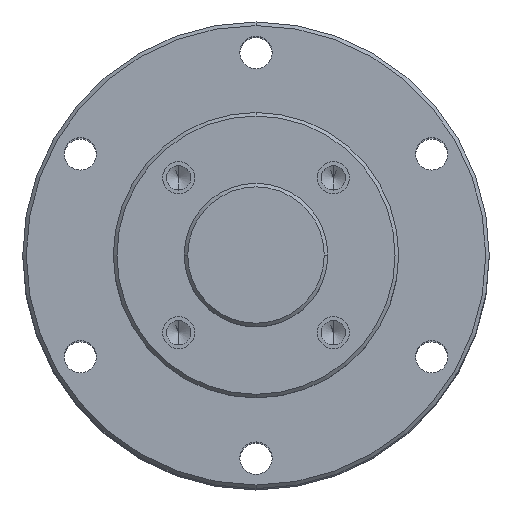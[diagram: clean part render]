
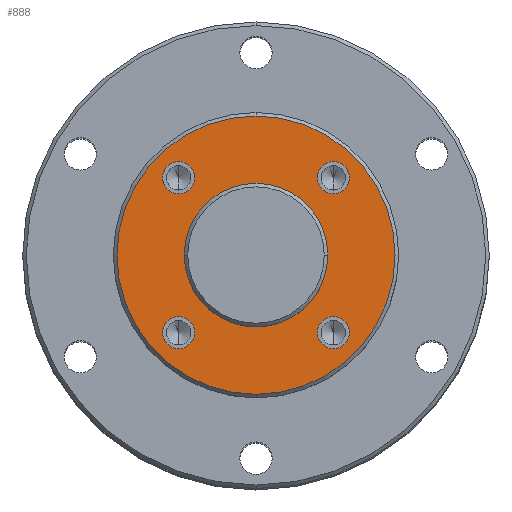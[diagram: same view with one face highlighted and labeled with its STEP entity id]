
A CAD part, top view. The second image highlights one B-rep face of the part: STEP entity #888.
In plain terms, the highlighted planar face has unit normal (0, 0, 1).
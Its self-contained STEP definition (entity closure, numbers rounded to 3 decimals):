
#10 = PLANE ( 'NONE',  #5360 ) ;
#138 = CARTESIAN_POINT ( 'NONE',  ( 0., 38.75, 0. ) ) ;
#148 = ORIENTED_EDGE ( 'NONE', *, *, #1441, .F. ) ;
#171 = CIRCLE ( 'NONE', #2858, 38.75 ) ;
#242 = CIRCLE ( 'NONE', #2780, 4.5 ) ;
#333 = VERTEX_POINT ( 'NONE', #3912 ) ;
#382 = VERTEX_POINT ( 'NONE', #3114 ) ;
#411 = EDGE_CURVE ( 'NONE', #2806, #333, #2847, .T. ) ;
#419 = AXIS2_PLACEMENT_3D ( 'NONE', #1274, #4206, #1695 ) ;
#431 = DIRECTION ( 'NONE',  ( 0., 1., 0. ) ) ;
#506 = FACE_OUTER_BOUND ( 'NONE', #5427, .T. ) ;
#571 = CARTESIAN_POINT ( 'NONE',  ( 0., -38.75, 0. ) ) ;
#606 = VERTEX_POINT ( 'NONE', #2577 ) ;
#627 = CARTESIAN_POINT ( 'NONE',  ( 0., 0., 0. ) ) ;
#708 = DIRECTION ( 'NONE',  ( 0., 0., 1. ) ) ;
#745 = DIRECTION ( 'NONE',  ( 0., 0., 1. ) ) ;
#780 = CARTESIAN_POINT ( 'NONE',  ( 17.067, -21.567, 0. ) ) ;
#826 = CARTESIAN_POINT ( 'NONE',  ( 0., 39.75, 0. ) ) ;
#888 = ADVANCED_FACE ( 'NONE', ( #3821, #506, #4885, #3681, #2595, #1608 ), #10, .F. ) ;
#922 = EDGE_CURVE ( 'NONE', #4090, #606, #1487, .T. ) ;
#1044 = DIRECTION ( 'NONE',  ( 0., 1., 0. ) ) ;
#1056 = EDGE_CURVE ( 'NONE', #4532, #1532, #4146, .T. ) ;
#1065 = DIRECTION ( 'NONE',  ( 0., 0., 1. ) ) ;
#1156 = CARTESIAN_POINT ( 'NONE',  ( -26.067, -21.567, 0. ) ) ;
#1185 = CIRCLE ( 'NONE', #1505, 4.5 ) ;
#1220 = EDGE_CURVE ( 'NONE', #606, #4090, #3226, .T. ) ;
#1274 = CARTESIAN_POINT ( 'NONE',  ( 21.567, -21.567, 0. ) ) ;
#1312 = DIRECTION ( 'NONE',  ( 0., 0., 1. ) ) ;
#1392 = CARTESIAN_POINT ( 'NONE',  ( 21.567, 21.567, 0. ) ) ;
#1441 = EDGE_CURVE ( 'NONE', #4339, #4916, #2058, .T. ) ;
#1487 = CIRCLE ( 'NONE', #419, 4.5 ) ;
#1489 = DIRECTION ( 'NONE',  ( 0., 0., 1. ) ) ;
#1505 = AXIS2_PLACEMENT_3D ( 'NONE', #3201, #708, #3615 ) ;
#1532 = VERTEX_POINT ( 'NONE', #5407 ) ;
#1542 = CARTESIAN_POINT ( 'NONE',  ( 0., 0., 0. ) ) ;
#1593 = AXIS2_PLACEMENT_3D ( 'NONE', #2104, #5103, #2527 ) ;
#1608 = FACE_BOUND ( 'NONE', #2853, .T. ) ;
#1695 = DIRECTION ( 'NONE',  ( 1., 0., 0. ) ) ;
#1726 = EDGE_LOOP ( 'NONE', ( #5357, #4997 ) ) ;
#1800 = CIRCLE ( 'NONE', #5320, 4.5 ) ;
#1814 = DIRECTION ( 'NONE',  ( -1., 0., 0. ) ) ;
#1834 = CARTESIAN_POINT ( 'NONE',  ( -21.567, 21.567, 0. ) ) ;
#1838 = AXIS2_PLACEMENT_3D ( 'NONE', #3812, #1312, #4240 ) ;
#1964 = DIRECTION ( 'NONE',  ( 0., 1., 0. ) ) ;
#2058 = CIRCLE ( 'NONE', #3394, 4.5 ) ;
#2070 = CARTESIAN_POINT ( 'NONE',  ( 20., 0., 0. ) ) ;
#2104 = CARTESIAN_POINT ( 'NONE',  ( 0., 0., 0. ) ) ;
#2246 = ORIENTED_EDGE ( 'NONE', *, *, #2343, .F. ) ;
#2263 = DIRECTION ( 'NONE',  ( 1., 0., 0. ) ) ;
#2296 = ORIENTED_EDGE ( 'NONE', *, *, #411, .F. ) ;
#2314 = EDGE_LOOP ( 'NONE', ( #148, #3570 ) ) ;
#2323 = DIRECTION ( 'NONE',  ( 0., 0., 1. ) ) ;
#2342 = EDGE_LOOP ( 'NONE', ( #4223, #3591 ) ) ;
#2343 = EDGE_CURVE ( 'NONE', #333, #2806, #4880, .T. ) ;
#2527 = DIRECTION ( 'NONE',  ( 1., 0., 0. ) ) ;
#2541 = EDGE_CURVE ( 'NONE', #4916, #4339, #1800, .T. ) ;
#2577 = CARTESIAN_POINT ( 'NONE',  ( 26.067, -21.567, 0. ) ) ;
#2595 = FACE_BOUND ( 'NONE', #2342, .T. ) ;
#2624 = AXIS2_PLACEMENT_3D ( 'NONE', #3233, #745, #3647 ) ;
#2689 = ORIENTED_EDGE ( 'NONE', *, *, #922, .F. ) ;
#2695 = VERTEX_POINT ( 'NONE', #3236 ) ;
#2739 = ORIENTED_EDGE ( 'NONE', *, *, #1220, .F. ) ;
#2780 = AXIS2_PLACEMENT_3D ( 'NONE', #1834, #4827, #2263 ) ;
#2806 = VERTEX_POINT ( 'NONE', #2070 ) ;
#2847 = CIRCLE ( 'NONE', #4075, 20. ) ;
#2853 = EDGE_LOOP ( 'NONE', ( #2739, #2689 ) ) ;
#2858 = AXIS2_PLACEMENT_3D ( 'NONE', #1542, #4501, #1964 ) ;
#2872 = EDGE_CURVE ( 'NONE', #2695, #382, #242, .T. ) ;
#2914 = DIRECTION ( 'NONE',  ( 0., 0., -1. ) ) ;
#3006 = CARTESIAN_POINT ( 'NONE',  ( 26.067, 21.567, 0. ) ) ;
#3114 = CARTESIAN_POINT ( 'NONE',  ( -17.067, 21.567, 0. ) ) ;
#3201 = CARTESIAN_POINT ( 'NONE',  ( 21.567, 21.567, 0. ) ) ;
#3226 = CIRCLE ( 'NONE', #1838, 4.5 ) ;
#3233 = CARTESIAN_POINT ( 'NONE',  ( -21.567, 21.567, 0. ) ) ;
#3236 = CARTESIAN_POINT ( 'NONE',  ( -26.067, 21.567, 0. ) ) ;
#3292 = CARTESIAN_POINT ( 'NONE',  ( -17.067, -21.567, 0. ) ) ;
#3394 = AXIS2_PLACEMENT_3D ( 'NONE', #3554, #1065, #3975 ) ;
#3532 = DIRECTION ( 'NONE',  ( 0., 0., 1. ) ) ;
#3543 = ORIENTED_EDGE ( 'NONE', *, *, #3829, .T. ) ;
#3554 = CARTESIAN_POINT ( 'NONE',  ( -21.567, -21.567, 0. ) ) ;
#3556 = AXIS2_PLACEMENT_3D ( 'NONE', #627, #3532, #1044 ) ;
#3570 = ORIENTED_EDGE ( 'NONE', *, *, #2541, .F. ) ;
#3591 = ORIENTED_EDGE ( 'NONE', *, *, #3953, .F. ) ;
#3615 = DIRECTION ( 'NONE',  ( -1., 0., 0. ) ) ;
#3647 = DIRECTION ( 'NONE',  ( 1., 0., 0. ) ) ;
#3681 = FACE_BOUND ( 'NONE', #2314, .T. ) ;
#3765 = VERTEX_POINT ( 'NONE', #571 ) ;
#3812 = CARTESIAN_POINT ( 'NONE',  ( 21.567, -21.567, 0. ) ) ;
#3821 = FACE_BOUND ( 'NONE', #5194, .T. ) ;
#3829 = EDGE_CURVE ( 'NONE', #4228, #3765, #5270, .T. ) ;
#3912 = CARTESIAN_POINT ( 'NONE',  ( -20., 0., 0. ) ) ;
#3953 = EDGE_CURVE ( 'NONE', #1532, #4532, #1185, .T. ) ;
#3975 = DIRECTION ( 'NONE',  ( -1., 0., 0. ) ) ;
#3976 = CARTESIAN_POINT ( 'NONE',  ( -21.567, -21.567, 0. ) ) ;
#4005 = EDGE_CURVE ( 'NONE', #382, #2695, #4273, .T. ) ;
#4075 = AXIS2_PLACEMENT_3D ( 'NONE', #4887, #2323, #5319 ) ;
#4090 = VERTEX_POINT ( 'NONE', #780 ) ;
#4146 = CIRCLE ( 'NONE', #4664, 4.5 ) ;
#4206 = DIRECTION ( 'NONE',  ( 0., 0., 1. ) ) ;
#4223 = ORIENTED_EDGE ( 'NONE', *, *, #1056, .F. ) ;
#4228 = VERTEX_POINT ( 'NONE', #138 ) ;
#4240 = DIRECTION ( 'NONE',  ( 1., 0., 0. ) ) ;
#4273 = CIRCLE ( 'NONE', #2624, 4.5 ) ;
#4325 = DIRECTION ( 'NONE',  ( 0., 0., 1. ) ) ;
#4339 = VERTEX_POINT ( 'NONE', #3292 ) ;
#4427 = DIRECTION ( 'NONE',  ( -1., 0., 0. ) ) ;
#4501 = DIRECTION ( 'NONE',  ( 0., 0., 1. ) ) ;
#4532 = VERTEX_POINT ( 'NONE', #3006 ) ;
#4664 = AXIS2_PLACEMENT_3D ( 'NONE', #1392, #4325, #1814 ) ;
#4827 = DIRECTION ( 'NONE',  ( 0., 0., 1. ) ) ;
#4872 = EDGE_CURVE ( 'NONE', #3765, #4228, #171, .T. ) ;
#4880 = CIRCLE ( 'NONE', #1593, 20. ) ;
#4885 = FACE_BOUND ( 'NONE', #1726, .T. ) ;
#4887 = CARTESIAN_POINT ( 'NONE',  ( 0., 0., 0. ) ) ;
#4916 = VERTEX_POINT ( 'NONE', #1156 ) ;
#4963 = ORIENTED_EDGE ( 'NONE', *, *, #4872, .T. ) ;
#4997 = ORIENTED_EDGE ( 'NONE', *, *, #2872, .F. ) ;
#5103 = DIRECTION ( 'NONE',  ( 0., 0., 1. ) ) ;
#5194 = EDGE_LOOP ( 'NONE', ( #2296, #2246 ) ) ;
#5270 = CIRCLE ( 'NONE', #3556, 38.75 ) ;
#5319 = DIRECTION ( 'NONE',  ( 1., 0., 0. ) ) ;
#5320 = AXIS2_PLACEMENT_3D ( 'NONE', #3976, #1489, #4427 ) ;
#5357 = ORIENTED_EDGE ( 'NONE', *, *, #4005, .F. ) ;
#5360 = AXIS2_PLACEMENT_3D ( 'NONE', #826, #2914, #431 ) ;
#5407 = CARTESIAN_POINT ( 'NONE',  ( 17.067, 21.567, 0. ) ) ;
#5427 = EDGE_LOOP ( 'NONE', ( #3543, #4963 ) ) ;
